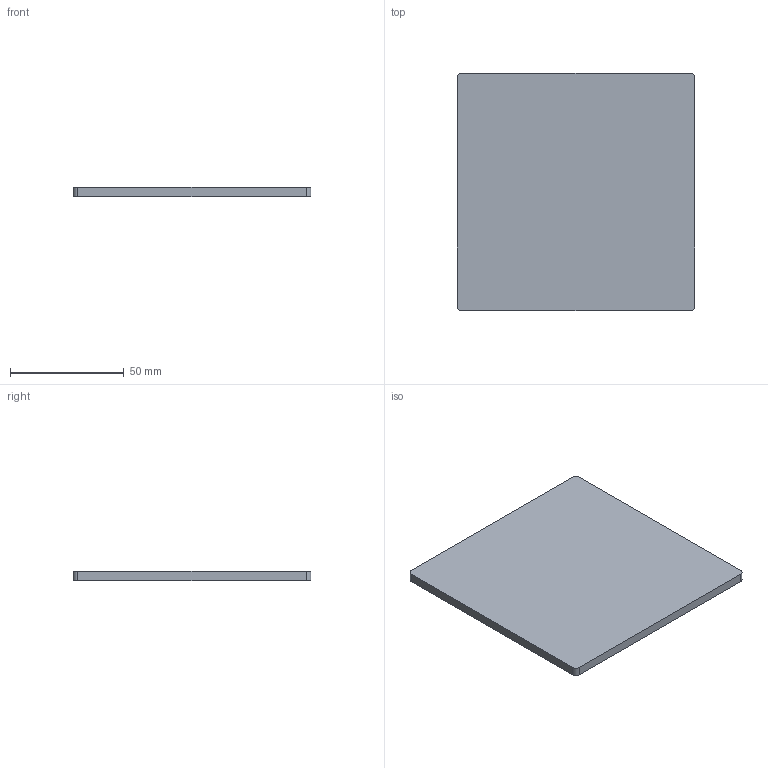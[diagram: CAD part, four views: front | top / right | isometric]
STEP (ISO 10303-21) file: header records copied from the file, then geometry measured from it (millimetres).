
FILE_DESCRIPTION (( 'STEP AP214' ), '1' );
FILE_NAME ('3561000511~cat.STEP', '2025-04-29T14:56:46', ( '' ), ( '' ), 'SwSTEP 2.0', 'SolidWorks 2025', '' );
FILE_SCHEMA (( 'AUTOMOTIVE_DESIGN' ));
Length unit declared in the file: millimetre
Products named in the file (1): 3561000511~cat
Bounding box: 104.5 x 104.5 x 4 mm (x, y, z)
Volume: 43665.9 mm3; surface area: 23490.5 mm2
Topology: 1 solids, 1 shells, 10 faces, 24 edges, 16 vertices
Faces by surface type: plane 6, cylinder 4
Entity records: 319 total; most frequent: DIRECTION 54, CARTESIAN_POINT 51, ORIENTED_EDGE 48, EDGE_CURVE 24, AXIS2_PLACEMENT_3D 19, VECTOR 16, LINE 16, VERTEX_POINT 16
